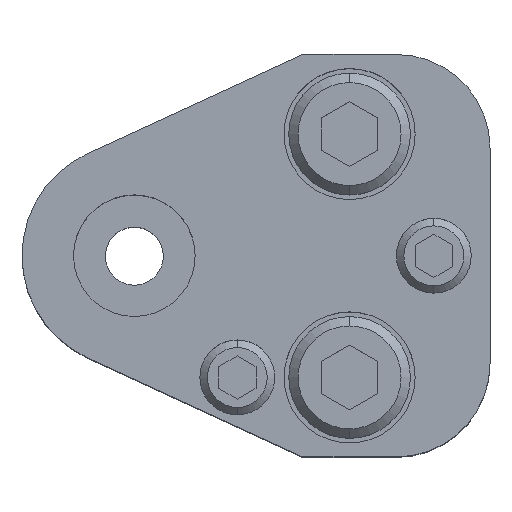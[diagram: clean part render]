
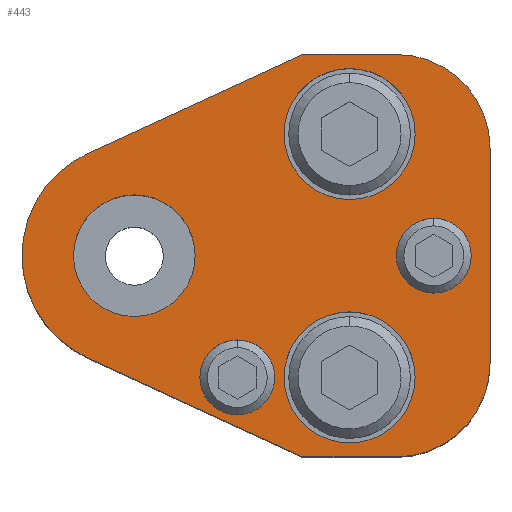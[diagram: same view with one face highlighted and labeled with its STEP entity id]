
A CAD part, top view. The second image highlights one B-rep face of the part: STEP entity #443.
In plain terms, the highlighted planar face has unit normal (0, 0, 1).
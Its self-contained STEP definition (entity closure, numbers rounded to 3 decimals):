
#206=FACE_BOUND('',#803,.T.);
#207=FACE_BOUND('',#804,.T.);
#208=FACE_BOUND('',#805,.T.);
#209=FACE_BOUND('',#806,.T.);
#210=FACE_BOUND('',#807,.T.);
#211=FACE_BOUND('',#808,.T.);
#269=CIRCLE('',#2664,10.);
#271=CIRCLE('',#2668,10.);
#274=CIRCLE('',#2673,4.);
#276=CIRCLE('',#2676,4.);
#278=CIRCLE('',#2679,4.);
#280=CIRCLE('',#2682,4.);
#289=CIRCLE('',#2696,12.);
#290=CIRCLE('',#2697,7.);
#291=CIRCLE('',#2698,7.);
#292=CIRCLE('',#2699,7.);
#293=CIRCLE('',#2700,7.);
#294=CIRCLE('',#2701,6.5);
#295=CIRCLE('',#2702,6.5);
#443=ADVANCED_FACE('',(#206,#207,#208,#209,#210,#211),#575,.T.);
#575=PLANE('',#2703);
#803=EDGE_LOOP('',(#1125,#1126,#1127,#1128,#1129,#1130,#1131,#1132));
#804=EDGE_LOOP('',(#1133,#1134));
#805=EDGE_LOOP('',(#1135,#1136));
#806=EDGE_LOOP('',(#1137,#1138));
#807=EDGE_LOOP('',(#1139,#1140));
#808=EDGE_LOOP('',(#1141,#1142));
#1125=ORIENTED_EDGE('',*,*,#1974,.T.);
#1126=ORIENTED_EDGE('',*,*,#1975,.T.);
#1127=ORIENTED_EDGE('',*,*,#1935,.T.);
#1128=ORIENTED_EDGE('',*,*,#1939,.T.);
#1129=ORIENTED_EDGE('',*,*,#1942,.T.);
#1130=ORIENTED_EDGE('',*,*,#1945,.T.);
#1131=ORIENTED_EDGE('',*,*,#1948,.T.);
#1132=ORIENTED_EDGE('',*,*,#1976,.T.);
#1133=ORIENTED_EDGE('',*,*,#1977,.F.);
#1134=ORIENTED_EDGE('',*,*,#1978,.F.);
#1135=ORIENTED_EDGE('',*,*,#1979,.F.);
#1136=ORIENTED_EDGE('',*,*,#1980,.F.);
#1137=ORIENTED_EDGE('',*,*,#1961,.F.);
#1138=ORIENTED_EDGE('',*,*,#1958,.F.);
#1139=ORIENTED_EDGE('',*,*,#1955,.F.);
#1140=ORIENTED_EDGE('',*,*,#1952,.F.);
#1141=ORIENTED_EDGE('',*,*,#1981,.T.);
#1142=ORIENTED_EDGE('',*,*,#1982,.T.);
#1686=VERTEX_POINT('',#3857);
#1687=VERTEX_POINT('',#3859);
#1690=VERTEX_POINT('',#3866);
#1692=VERTEX_POINT('',#3872);
#1694=VERTEX_POINT('',#3878);
#1696=VERTEX_POINT('',#3884);
#1699=VERTEX_POINT('',#3892);
#1700=VERTEX_POINT('',#3894);
#1703=VERTEX_POINT('',#3904);
#1704=VERTEX_POINT('',#3906);
#1713=VERTEX_POINT('',#3937);
#1714=VERTEX_POINT('',#3938);
#1715=VERTEX_POINT('',#3942);
#1716=VERTEX_POINT('',#3943);
#1717=VERTEX_POINT('',#3946);
#1718=VERTEX_POINT('',#3947);
#1719=VERTEX_POINT('',#3950);
#1720=VERTEX_POINT('',#3951);
#1935=EDGE_CURVE('',#1687,#1686,#2269,.T.);
#1939=EDGE_CURVE('',#1686,#1690,#269,.T.);
#1942=EDGE_CURVE('',#1690,#1692,#2274,.T.);
#1945=EDGE_CURVE('',#1692,#1694,#271,.T.);
#1948=EDGE_CURVE('',#1694,#1696,#2278,.T.);
#1952=EDGE_CURVE('',#1699,#1700,#274,.T.);
#1955=EDGE_CURVE('',#1700,#1699,#276,.T.);
#1958=EDGE_CURVE('',#1703,#1704,#278,.T.);
#1961=EDGE_CURVE('',#1704,#1703,#280,.T.);
#1974=EDGE_CURVE('',#1713,#1714,#289,.T.);
#1975=EDGE_CURVE('',#1714,#1687,#2288,.T.);
#1976=EDGE_CURVE('',#1696,#1713,#2289,.T.);
#1977=EDGE_CURVE('',#1715,#1716,#290,.T.);
#1978=EDGE_CURVE('',#1716,#1715,#291,.T.);
#1979=EDGE_CURVE('',#1717,#1718,#292,.T.);
#1980=EDGE_CURVE('',#1718,#1717,#293,.T.);
#1981=EDGE_CURVE('',#1719,#1720,#294,.T.);
#1982=EDGE_CURVE('',#1720,#1719,#295,.T.);
#2269=LINE('',#3858,#2467);
#2274=LINE('',#3873,#2472);
#2278=LINE('',#3885,#2476);
#2288=LINE('',#3939,#2486);
#2289=LINE('',#3940,#2487);
#2467=VECTOR('',#3061,1.);
#2472=VECTOR('',#3074,1.);
#2476=VECTOR('',#3086,1.);
#2486=VECTOR('',#3148,1.);
#2487=VECTOR('',#3149,1.);
#2664=AXIS2_PLACEMENT_3D('',#3867,#3067,#3068);
#2668=AXIS2_PLACEMENT_3D('',#3879,#3079,#3080);
#2673=AXIS2_PLACEMENT_3D('',#3893,#3093,#3094);
#2676=AXIS2_PLACEMENT_3D('',#3898,#3100,#3101);
#2679=AXIS2_PLACEMENT_3D('',#3905,#3107,#3108);
#2682=AXIS2_PLACEMENT_3D('',#3910,#3114,#3115);
#2696=AXIS2_PLACEMENT_3D('',#3936,#3146,#3147);
#2697=AXIS2_PLACEMENT_3D('',#3941,#3150,#3151);
#2698=AXIS2_PLACEMENT_3D('',#3944,#3152,#3153);
#2699=AXIS2_PLACEMENT_3D('',#3945,#3154,#3155);
#2700=AXIS2_PLACEMENT_3D('',#3948,#3156,#3157);
#2701=AXIS2_PLACEMENT_3D('',#3949,#3158,#3159);
#2702=AXIS2_PLACEMENT_3D('',#3952,#3160,#3161);
#2703=AXIS2_PLACEMENT_3D('',#3953,#3162,#3163);
#3061=DIRECTION('',(1.,0.,0.));
#3067=DIRECTION('',(0.,0.,1.));
#3068=DIRECTION('',(-0.707,0.707,0.));
#3074=DIRECTION('',(0.,1.,0.));
#3079=DIRECTION('',(0.,0.,1.));
#3080=DIRECTION('',(-0.707,-0.707,0.));
#3086=DIRECTION('',(-1.,0.,0.));
#3093=DIRECTION('',(0.,0.,1.));
#3094=DIRECTION('',(-1.,0.,0.));
#3100=DIRECTION('',(0.,0.,1.));
#3101=DIRECTION('',(1.,0.,0.));
#3107=DIRECTION('',(0.,0.,1.));
#3108=DIRECTION('',(-1.,0.,0.));
#3114=DIRECTION('',(0.,0.,1.));
#3115=DIRECTION('',(1.,0.,0.));
#3146=DIRECTION('',(0.,0.,1.));
#3147=DIRECTION('',(0.,1.,0.));
#3148=DIRECTION('',(0.908,-0.418,0.));
#3149=DIRECTION('',(-0.908,-0.418,0.));
#3150=DIRECTION('',(0.,0.,1.));
#3151=DIRECTION('',(1.,0.,0.));
#3152=DIRECTION('',(0.,0.,1.));
#3153=DIRECTION('',(-1.,0.,0.));
#3154=DIRECTION('',(0.,0.,1.));
#3155=DIRECTION('',(1.,0.,0.));
#3156=DIRECTION('',(0.,0.,1.));
#3157=DIRECTION('',(-1.,0.,0.));
#3158=DIRECTION('',(0.,0.,-1.));
#3159=DIRECTION('',(-1.,0.,0.));
#3160=DIRECTION('',(0.,0.,-1.));
#3161=DIRECTION('',(1.,0.,0.));
#3162=DIRECTION('',(0.,0.,1.));
#3163=DIRECTION('',(0.908,0.418,0.));
#3857=CARTESIAN_POINT('',(28.,-21.5,35.));
#3858=CARTESIAN_POINT('',(18.,-21.5,35.));
#3859=CARTESIAN_POINT('',(18.,-21.5,35.));
#3866=CARTESIAN_POINT('',(38.,-11.5,35.));
#3867=CARTESIAN_POINT('',(28.,-11.5,35.));
#3872=CARTESIAN_POINT('',(38.,11.5,35.));
#3873=CARTESIAN_POINT('',(38.,-11.5,35.));
#3878=CARTESIAN_POINT('',(28.,21.5,35.));
#3879=CARTESIAN_POINT('',(28.,11.5,35.));
#3884=CARTESIAN_POINT('',(18.,21.5,35.));
#3885=CARTESIAN_POINT('',(18.,21.5,35.));
#3892=CARTESIAN_POINT('',(11.,-17.,35.));
#3893=CARTESIAN_POINT('',(11.,-13.,35.));
#3894=CARTESIAN_POINT('',(11.,-9.,35.));
#3898=CARTESIAN_POINT('',(11.,-13.,35.));
#3904=CARTESIAN_POINT('',(32.,-4.,35.));
#3905=CARTESIAN_POINT('',(32.,0.,35.));
#3906=CARTESIAN_POINT('',(32.,4.,35.));
#3910=CARTESIAN_POINT('',(32.,0.,35.));
#3936=CARTESIAN_POINT('',(0.,0.,35.));
#3937=CARTESIAN_POINT('',(-5.019,10.9,35.));
#3938=CARTESIAN_POINT('',(-5.019,-10.9,35.));
#3939=CARTESIAN_POINT('',(18.,-21.5,35.));
#3940=CARTESIAN_POINT('',(18.,21.5,35.));
#3941=CARTESIAN_POINT('',(23.,-13.,35.));
#3942=CARTESIAN_POINT('',(23.,-6.,35.));
#3943=CARTESIAN_POINT('',(23.,-20.,35.));
#3944=CARTESIAN_POINT('',(23.,-13.,35.));
#3945=CARTESIAN_POINT('',(23.,13.,35.));
#3946=CARTESIAN_POINT('',(23.,20.,35.));
#3947=CARTESIAN_POINT('',(23.,6.,35.));
#3948=CARTESIAN_POINT('',(23.,13.,35.));
#3949=CARTESIAN_POINT('',(0.,0.,35.));
#3950=CARTESIAN_POINT('',(0.,6.5,35.));
#3951=CARTESIAN_POINT('',(0.,-6.5,35.));
#3952=CARTESIAN_POINT('',(0.,0.,35.));
#3953=CARTESIAN_POINT('',(-5.019,10.9,35.));
